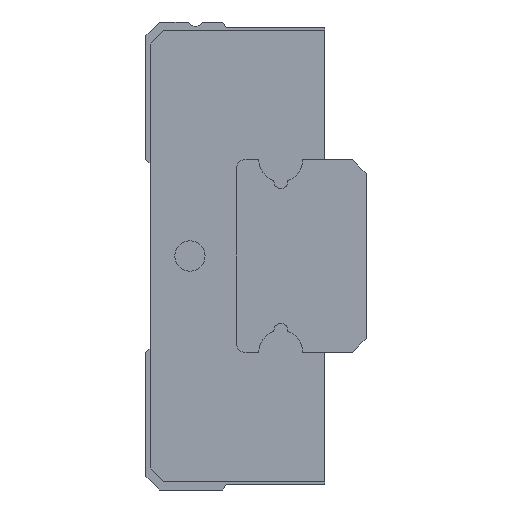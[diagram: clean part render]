
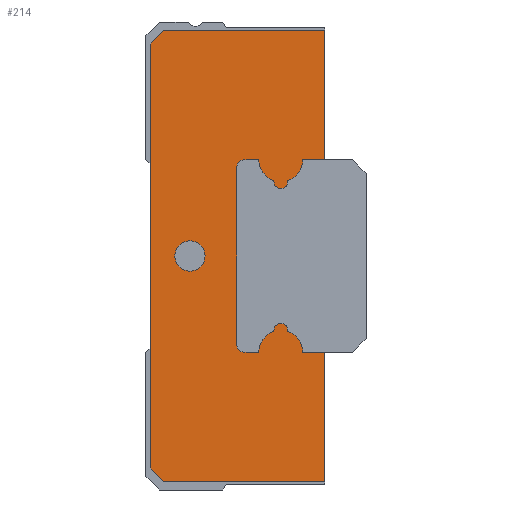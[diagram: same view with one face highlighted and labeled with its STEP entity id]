
A CAD part, left-side view. The second image highlights one B-rep face of the part: STEP entity #214.
In plain terms, the highlighted planar face has unit normal (-1, 0, 0).
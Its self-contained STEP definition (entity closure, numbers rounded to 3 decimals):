
#214 = ADVANCED_FACE( '', ( #465, #466 ), #467, .T. );
#465 = FACE_BOUND( '', #773, .T. );
#466 = FACE_OUTER_BOUND( '', #774, .T. );
#467 = PLANE( '', #775 );
#773 = EDGE_LOOP( '', ( #1208 ) );
#774 = EDGE_LOOP( '', ( #1209, #1210, #1211, #1212, #1213, #1214, #1215, #1216, #1217, #1218, #1219, #1220, #1221, #1222, #1223, #1224, #1225, #1226, #1227, #1228 ) );
#775 = AXIS2_PLACEMENT_3D( '', #1229, #1230, #1231 );
#1208 = ORIENTED_EDGE( '', *, *, #1875, .T. );
#1209 = ORIENTED_EDGE( '', *, *, #1876, .F. );
#1210 = ORIENTED_EDGE( '', *, *, #1790, .T. );
#1211 = ORIENTED_EDGE( '', *, *, #1877, .F. );
#1212 = ORIENTED_EDGE( '', *, *, #1878, .F. );
#1213 = ORIENTED_EDGE( '', *, *, #1739, .F. );
#1214 = ORIENTED_EDGE( '', *, *, #1879, .T. );
#1215 = ORIENTED_EDGE( '', *, *, #1830, .T. );
#1216 = ORIENTED_EDGE( '', *, *, #1880, .T. );
#1217 = ORIENTED_EDGE( '', *, *, #1852, .T. );
#1218 = ORIENTED_EDGE( '', *, *, #1881, .T. );
#1219 = ORIENTED_EDGE( '', *, *, #1882, .F. );
#1220 = ORIENTED_EDGE( '', *, *, #1883, .F. );
#1221 = ORIENTED_EDGE( '', *, *, #1795, .F. );
#1222 = ORIENTED_EDGE( '', *, *, #1804, .T. );
#1223 = ORIENTED_EDGE( '', *, *, #1828, .F. );
#1224 = ORIENTED_EDGE( '', *, *, #1884, .F. );
#1225 = ORIENTED_EDGE( '', *, *, #1885, .F. );
#1226 = ORIENTED_EDGE( '', *, *, #1886, .F. );
#1227 = ORIENTED_EDGE( '', *, *, #1844, .F. );
#1228 = ORIENTED_EDGE( '', *, *, #1887, .F. );
#1229 = CARTESIAN_POINT( '', ( -15.4, 0., 0. ) );
#1230 = DIRECTION( '', ( -1., 0., 0. ) );
#1231 = DIRECTION( '', ( 0., 0., 1. ) );
#1739 = EDGE_CURVE( '', #2037, #2038, #2039, .T. );
#1790 = EDGE_CURVE( '', #2126, #2127, #2128, .T. );
#1795 = EDGE_CURVE( '', #2135, #2136, #2137, .T. );
#1804 = EDGE_CURVE( '', #2135, #2150, #2151, .T. );
#1828 = EDGE_CURVE( '', #2188, #2150, #2190, .T. );
#1830 = EDGE_CURVE( '', #2192, #2193, #2194, .T. );
#1844 = EDGE_CURVE( '', #2213, #2215, #2216, .T. );
#1852 = EDGE_CURVE( '', #2228, #2229, #2230, .T. );
#1875 = EDGE_CURVE( '', #2267, #2267, #2268, .T. );
#1876 = EDGE_CURVE( '', #2126, #2269, #2270, .T. );
#1877 = EDGE_CURVE( '', #2271, #2127, #2272, .T. );
#1878 = EDGE_CURVE( '', #2038, #2271, #2273, .T. );
#1879 = EDGE_CURVE( '', #2037, #2192, #2274, .T. );
#1880 = EDGE_CURVE( '', #2193, #2228, #2275, .T. );
#1881 = EDGE_CURVE( '', #2229, #2276, #2277, .T. );
#1882 = EDGE_CURVE( '', #2278, #2276, #2279, .T. );
#1883 = EDGE_CURVE( '', #2136, #2278, #2280, .T. );
#1884 = EDGE_CURVE( '', #2281, #2188, #2282, .T. );
#1885 = EDGE_CURVE( '', #2283, #2281, #2284, .T. );
#1886 = EDGE_CURVE( '', #2215, #2283, #2285, .T. );
#1887 = EDGE_CURVE( '', #2269, #2213, #2286, .T. );
#2037 = VERTEX_POINT( '', #2475 );
#2038 = VERTEX_POINT( '', #2476 );
#2039 = CIRCLE( '', #2477, 0.8 );
#2126 = VERTEX_POINT( '', #2594 );
#2127 = VERTEX_POINT( '', #2595 );
#2128 = LINE( '', #2596, #2597 );
#2135 = VERTEX_POINT( '', #2607 );
#2136 = VERTEX_POINT( '', #2608 );
#2137 = CIRCLE( '', #2609, 0.8 );
#2150 = VERTEX_POINT( '', #2625 );
#2151 = LINE( '', #2626, #2627 );
#2188 = VERTEX_POINT( '', #2675 );
#2190 = LINE( '', #2678, #2679 );
#2192 = VERTEX_POINT( '', #2681 );
#2193 = VERTEX_POINT( '', #2682 );
#2194 = CIRCLE( '', #2683, 0.3 );
#2213 = VERTEX_POINT( '', #2708 );
#2215 = VERTEX_POINT( '', #2711 );
#2216 = LINE( '', #2712, #2713 );
#2228 = VERTEX_POINT( '', #2730 );
#2229 = VERTEX_POINT( '', #2731 );
#2230 = CIRCLE( '', #2732, 0.3 );
#2267 = VERTEX_POINT( '', #2783 );
#2268 = CIRCLE( '', #2784, 0.55 );
#2269 = VERTEX_POINT( '', #2785 );
#2270 = LINE( '', #2786, #2787 );
#2271 = VERTEX_POINT( '', #2788 );
#2272 = CIRCLE( '', #2789, 0.8 );
#2273 = CIRCLE( '', #2790, 0.25 );
#2274 = LINE( '', #2791, #2792 );
#2275 = LINE( '', #2793, #2794 );
#2276 = VERTEX_POINT( '', #2795 );
#2277 = LINE( '', #2796, #2797 );
#2278 = VERTEX_POINT( '', #2798 );
#2279 = CIRCLE( '', #2799, 0.8 );
#2280 = CIRCLE( '', #2800, 0.25 );
#2281 = VERTEX_POINT( '', #2801 );
#2282 = LINE( '', #2802, #2803 );
#2283 = VERTEX_POINT( '', #2804 );
#2284 = LINE( '', #2805, #2806 );
#2285 = LINE( '', #2807, #2808 );
#2286 = LINE( '', #2809, #2810 );
#2475 = CARTESIAN_POINT( '', ( -15.4, 2.4, -3.5 ) );
#2476 = CARTESIAN_POINT( '', ( -15.4, 1.847, -2.739 ) );
#2477 = AXIS2_PLACEMENT_3D( '', #3060, #3061, #3062 );
#2594 = CARTESIAN_POINT( '', ( -15.4, 0., -3.5 ) );
#2595 = CARTESIAN_POINT( '', ( -15.4, 0.8, -3.5 ) );
#2596 = CARTESIAN_POINT( '', ( -15.4, 0., -3.5 ) );
#2597 = VECTOR( '', #3120, 1000. );
#2607 = CARTESIAN_POINT( '', ( -15.4, 0.8, 3.5 ) );
#2608 = CARTESIAN_POINT( '', ( -15.4, 1.353, 2.739 ) );
#2609 = AXIS2_PLACEMENT_3D( '', #3124, #3125, #3126 );
#2625 = CARTESIAN_POINT( '', ( -15.4, 0., 3.5 ) );
#2626 = CARTESIAN_POINT( '', ( -15.4, 0.8, 3.5 ) );
#2627 = VECTOR( '', #3139, 1000. );
#2675 = CARTESIAN_POINT( '', ( -15.4, 0., 8.2 ) );
#2678 = CARTESIAN_POINT( '', ( -15.4, 0., 8.2 ) );
#2679 = VECTOR( '', #3170, 1000. );
#2681 = CARTESIAN_POINT( '', ( -15.4, 2.9, -3.5 ) );
#2682 = CARTESIAN_POINT( '', ( -15.4, 3.2, -3.2 ) );
#2683 = AXIS2_PLACEMENT_3D( '', #3171, #3172, #3173 );
#2708 = CARTESIAN_POINT( '', ( -15.4, 5.85, -8.2 ) );
#2711 = CARTESIAN_POINT( '', ( -15.4, 6.35, -7.7 ) );
#2712 = CARTESIAN_POINT( '', ( -15.4, 5.85, -8.2 ) );
#2713 = VECTOR( '', #3187, 1000. );
#2730 = CARTESIAN_POINT( '', ( -15.4, 3.2, 3.2 ) );
#2731 = CARTESIAN_POINT( '', ( -15.4, 2.9, 3.5 ) );
#2732 = AXIS2_PLACEMENT_3D( '', #3193, #3194, #3195 );
#2783 = CARTESIAN_POINT( '', ( -15.4, 4.9, -0.55 ) );
#2784 = AXIS2_PLACEMENT_3D( '', #3219, #3220, #3221 );
#2785 = CARTESIAN_POINT( '', ( -15.4, 0., -8.2 ) );
#2786 = CARTESIAN_POINT( '', ( -15.4, 0., 8.2 ) );
#2787 = VECTOR( '', #3222, 1000. );
#2788 = CARTESIAN_POINT( '', ( -15.4, 1.353, -2.739 ) );
#2789 = AXIS2_PLACEMENT_3D( '', #3223, #3224, #3225 );
#2790 = AXIS2_PLACEMENT_3D( '', #3226, #3227, #3228 );
#2791 = CARTESIAN_POINT( '', ( -15.4, 2.4, -3.5 ) );
#2792 = VECTOR( '', #3229, 1000. );
#2793 = CARTESIAN_POINT( '', ( -15.4, 3.2, -3.2 ) );
#2794 = VECTOR( '', #3230, 1000. );
#2795 = CARTESIAN_POINT( '', ( -15.4, 2.4, 3.5 ) );
#2796 = CARTESIAN_POINT( '', ( -15.4, 2.9, 3.5 ) );
#2797 = VECTOR( '', #3231, 1000. );
#2798 = CARTESIAN_POINT( '', ( -15.4, 1.847, 2.739 ) );
#2799 = AXIS2_PLACEMENT_3D( '', #3232, #3233, #3234 );
#2800 = AXIS2_PLACEMENT_3D( '', #3235, #3236, #3237 );
#2801 = CARTESIAN_POINT( '', ( -15.4, 5.85, 8.2 ) );
#2802 = CARTESIAN_POINT( '', ( -15.4, 5.85, 8.2 ) );
#2803 = VECTOR( '', #3238, 1000. );
#2804 = CARTESIAN_POINT( '', ( -15.4, 6.35, 7.7 ) );
#2805 = CARTESIAN_POINT( '', ( -15.4, 6.35, 7.7 ) );
#2806 = VECTOR( '', #3239, 1000. );
#2807 = CARTESIAN_POINT( '', ( -15.4, 6.35, -7.7 ) );
#2808 = VECTOR( '', #3240, 1000. );
#2809 = CARTESIAN_POINT( '', ( -15.4, 0., -8.2 ) );
#2810 = VECTOR( '', #3241, 1000. );
#3060 = CARTESIAN_POINT( '', ( -15.4, 1.6, -3.5 ) );
#3061 = DIRECTION( '', ( 1., 0., 0. ) );
#3062 = DIRECTION( '', ( 0., 0., -1. ) );
#3120 = DIRECTION( '', ( 0., 1., 0. ) );
#3124 = CARTESIAN_POINT( '', ( -15.4, 1.6, 3.5 ) );
#3125 = DIRECTION( '', ( 1., 0., 0. ) );
#3126 = DIRECTION( '', ( 0., 0., -1. ) );
#3139 = DIRECTION( '', ( 0., -1., 0. ) );
#3170 = DIRECTION( '', ( 0., 0., -1. ) );
#3171 = CARTESIAN_POINT( '', ( -15.4, 2.9, -3.2 ) );
#3172 = DIRECTION( '', ( 1., 0., 0. ) );
#3173 = DIRECTION( '', ( 0., 0., -1. ) );
#3187 = DIRECTION( '', ( 0., 0.707, 0.707 ) );
#3193 = CARTESIAN_POINT( '', ( -15.4, 2.9, 3.2 ) );
#3194 = DIRECTION( '', ( 1., 0., 0. ) );
#3195 = DIRECTION( '', ( 0., 0., -1. ) );
#3219 = CARTESIAN_POINT( '', ( -15.4, 4.9, 0. ) );
#3220 = DIRECTION( '', ( 1., 0., 0. ) );
#3221 = DIRECTION( '', ( 0., 0., -1. ) );
#3222 = DIRECTION( '', ( 0., 0., -1. ) );
#3223 = CARTESIAN_POINT( '', ( -15.4, 1.6, -3.5 ) );
#3224 = DIRECTION( '', ( 1., 0., 0. ) );
#3225 = DIRECTION( '', ( 0., 0., -1. ) );
#3226 = CARTESIAN_POINT( '', ( -15.4, 1.6, -2.7 ) );
#3227 = DIRECTION( '', ( 1., 0., 0. ) );
#3228 = DIRECTION( '', ( 0., 0., -1. ) );
#3229 = DIRECTION( '', ( 0., 1., 0. ) );
#3230 = DIRECTION( '', ( 0., 0., 1. ) );
#3231 = DIRECTION( '', ( 0., -1., 0. ) );
#3232 = CARTESIAN_POINT( '', ( -15.4, 1.6, 3.5 ) );
#3233 = DIRECTION( '', ( 1., 0., 0. ) );
#3234 = DIRECTION( '', ( 0., 0., -1. ) );
#3235 = CARTESIAN_POINT( '', ( -15.4, 1.6, 2.7 ) );
#3236 = DIRECTION( '', ( 1., 0., 0. ) );
#3237 = DIRECTION( '', ( 0., 0., -1. ) );
#3238 = DIRECTION( '', ( 0., -1., 0. ) );
#3239 = DIRECTION( '', ( 0., -0.707, 0.707 ) );
#3240 = DIRECTION( '', ( 0., 0., 1. ) );
#3241 = DIRECTION( '', ( 0., 1., 0. ) );
